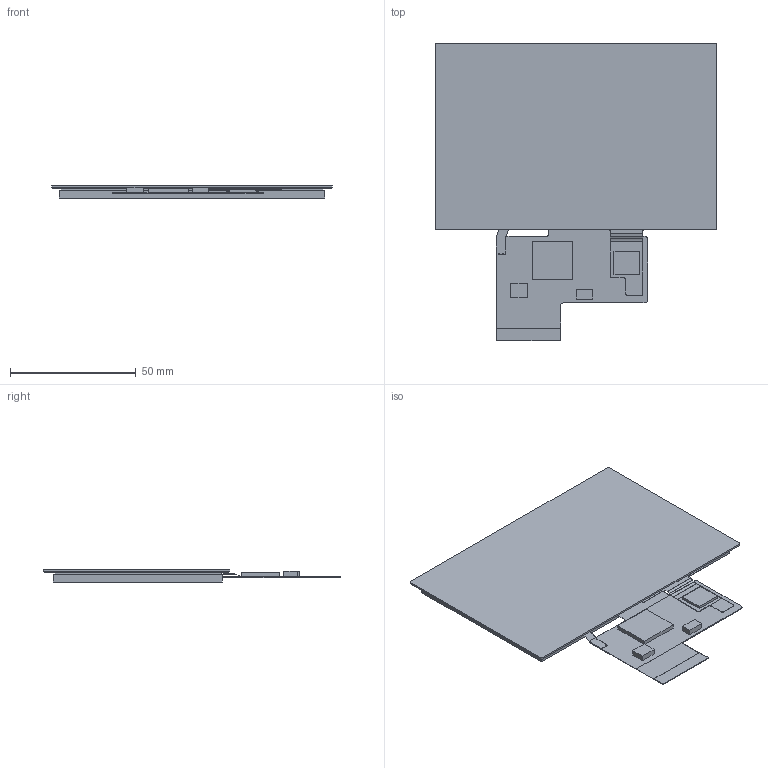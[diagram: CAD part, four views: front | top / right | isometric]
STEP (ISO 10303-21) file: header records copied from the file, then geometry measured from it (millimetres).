
FILE_DESCRIPTION((''),'2;1');
FILE_NAME('DMG48270F043-02WTCZ01','2024-09-18T',('Administrator'),(''),'PRO/ENGINEER BY PARAMETRIC TECHNOLOGY CORPORATION, 2008380','PRO/ENGINEER BY PARAMETRIC TECHNOLOGY CORPORATION, 2008380','');
FILE_SCHEMA(('CONFIG_CONTROL_DESIGN'));
Length unit declared in the file: millimetre
Products named in the file (1): DMG48270F043-02WTCZ01
Bounding box: 111.5 x 118.07 x 4.78 mm (x, y, z)
Volume: 34780.4 mm3; surface area: 35697.2 mm2
Topology: 1 solids, 1 shells, 149 faces, 1198 edges, 1198 vertices
Faces by surface type: plane 121, cylinder 28
Entity records: 9623 total; most frequent: DIRECTION 1642, CARTESIAN_POINT 1630, VECTOR 1060, LINE 1060, ORIENTED_EDGE 838, TRIMMED_CURVE 780, COMPOSITE_CURVE_SEGMENT 649, EDGE_CURVE 419
